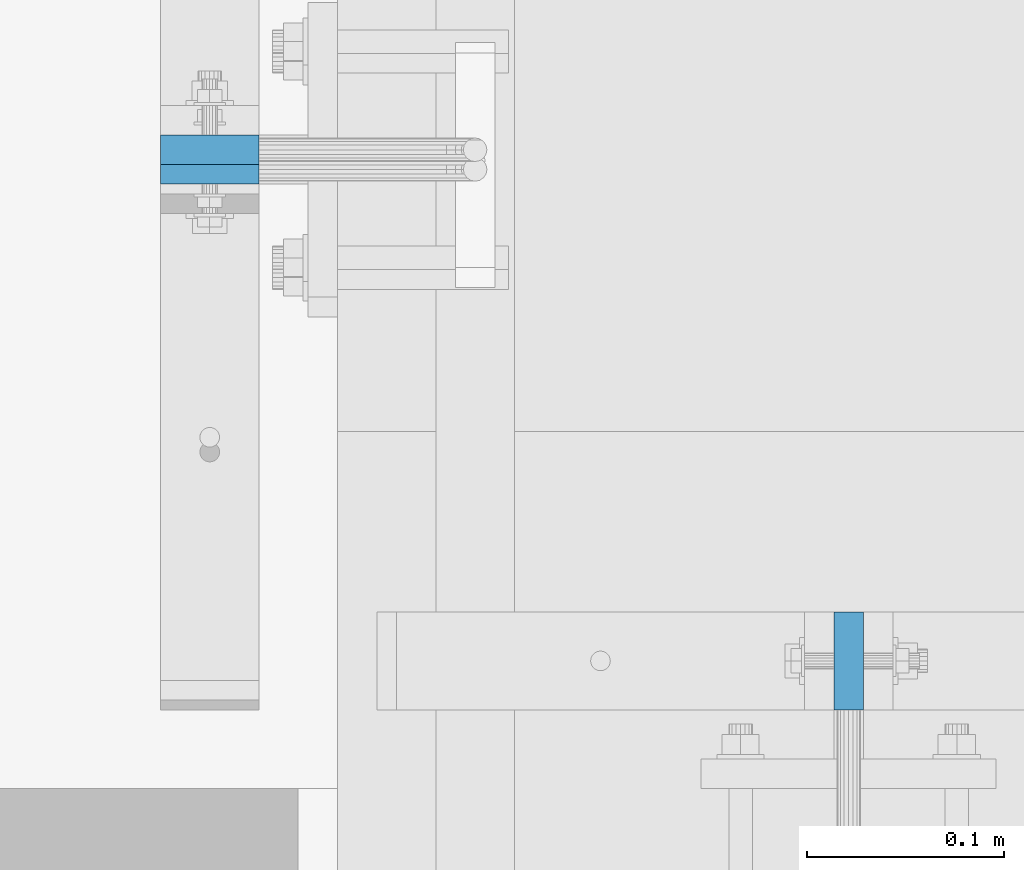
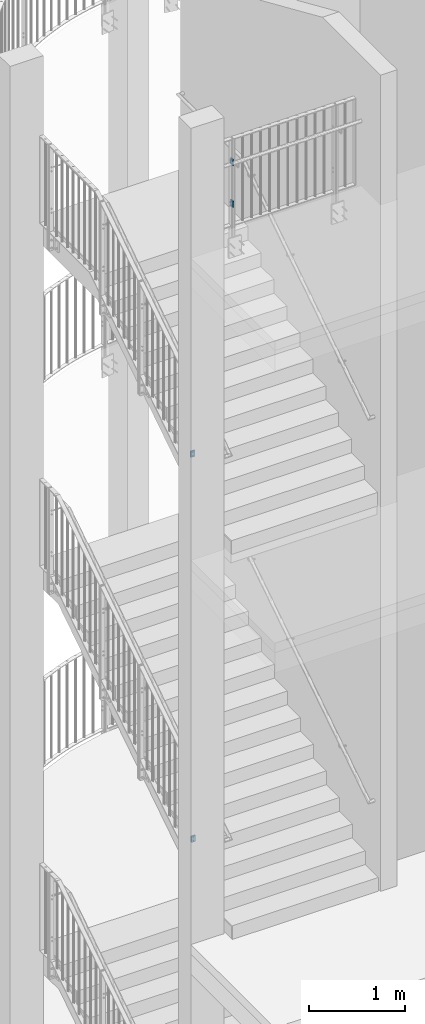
# One storey, part 119 of 296: 4 plates, 8 openings.
"""IFC2X3 building model written with IfcOpenShell, lengths in millimetres."""

from ifc_helpers import new_model, entity, si_unit, converted_unit, frame, frame_2d, origin, origin_with_axes, place, context, project, spatial, polyline, circle, outline, extrude, material, layer, layer_set, element, save


model = new_model("IFC2X3")

# Units and contexts
model_context = context("Model", 3, precision=1e-09, world=origin_with_axes())
ifc_project = project(units=[si_unit("LENGTHUNIT", "METRE", prefix="MILLI"), si_unit("AREAUNIT", "SQUARE_METRE"), si_unit("VOLUMEUNIT", "CUBIC_METRE"), converted_unit("PLANEANGLEUNIT", "DEGREE", entity("IfcPlaneAngleMeasure", 0.01745329), si_unit("PLANEANGLEUNIT", "RADIAN"), dimensions=[0, 0, 0, 0, 0, 0, 0])], contexts=[model_context])

# Site, building, storey
site_placement = place(None, origin_with_axes())
site = spatial("IfcSite", under=ifc_project, at=site_placement, Name="TZD-S?d | Treppenhausgel?nder", CompositionType="ELEMENT")
building_placement = place(site_placement, origin_with_axes())
building = spatial("IfcBuilding", under=site, at=building_placement, Name="Struktur 1", CompositionType="ELEMENT")
storey_placement = place(building_placement, origin_with_axes())
storey = spatial("IfcBuildingStorey", under=building, at=storey_placement, Name="Default Storey", CompositionType="ELEMENT", Elevation=0.0)

# Plate, openings
ifc_material = material(Name="S235JR")
ifc_layer = layer(ifc_material, 15.0)
ifc_layer_set = layer_set([ifc_layer], Name="S235JR")
plate_1_placement = place(None, frame((287.499999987, -3710.001, 14445.001), z_axis=(-1.0, 0.0, 0.0), x_axis=(0.0, -1.0, 0.0)))
plate_1 = element("IfcPlate", 1, at=plate_1_placement, inside=storey, material=ifc_layer_set, Name="Girder", ObjectType="Girder", context=model_context, shape_type="SweptSolid", body=[
    extrude(outline(polyline([(-25.0, -40.0), (25.0, -40.0), (25.0, 40.0), (-25.0, 40.0), (-25.0, -40.0)])), origin_with_axes(), (0.0, 0.0, 1.0), 15.0),
])
opening_1_placement = place(plate_1_placement, frame((0.0, -1e-09, -0.5), z_axis=(0.0, 0.0, 1.0), x_axis=(1.0, 0.0, 0.0)))
element("IfcOpeningElement", 2, at=opening_1_placement, cuts=plate_1, ObjectType="Opening", context=model_context, shape_type="SweptSolid", body=[
    extrude(circle(Radius=5.001, at=frame_2d((0.0, 25.0), x_axis=(1.0, 0.0))), origin(), (0.0, 0.0, 1.0), 16.0),
])
opening_2_placement = place(plate_1_placement, frame((0.0, -1e-09, -0.5), z_axis=(0.0, 0.0, 1.0), x_axis=(1.0, 0.0, 0.0)))
element("IfcOpeningElement", 3, at=opening_2_placement, cuts=plate_1, ObjectType="Opening", context=model_context, shape_type="SweptSolid", body=[
    extrude(circle(Radius=5.001, at=frame_2d((0.0, -25.0), x_axis=(1.0, 0.0))), origin(), (0.0, 0.0, 1.0), 16.0),
])

plate_2_placement = place(None, frame((287.499999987, -3710.001, 13915.001), z_axis=(-1.0, 0.0, 0.0), x_axis=(0.0, -1.0, 0.0)))
plate_2 = element("IfcPlate", 4, at=plate_2_placement, inside=storey, material=ifc_layer_set, Name="Girder", ObjectType="Girder", context=model_context, shape_type="SweptSolid", body=[
    extrude(outline(polyline([(-25.0, -40.0), (25.0, -40.0), (25.0, 40.0), (-25.0, 40.0), (-25.0, -40.0)])), origin_with_axes(), (0.0, 0.0, 1.0), 15.0),
])
opening_3_placement = place(plate_2_placement, frame((0.0, -1e-09, -0.5), z_axis=(0.0, 0.0, 1.0), x_axis=(1.0, 0.0, 0.0)))
element("IfcOpeningElement", 5, at=opening_3_placement, cuts=plate_2, ObjectType="Opening", context=model_context, shape_type="SweptSolid", body=[
    extrude(circle(Radius=5.001, at=frame_2d((0.0, 25.0), x_axis=(1.0, 0.0))), origin(), (0.0, 0.0, 1.0), 16.0),
])
opening_4_placement = place(plate_2_placement, frame((0.0, -1e-09, -0.5), z_axis=(0.0, 0.0, 1.0), x_axis=(1.0, 0.0, 0.0)))
element("IfcOpeningElement", 6, at=opening_4_placement, cuts=plate_2, ObjectType="Opening", context=model_context, shape_type="SweptSolid", body=[
    extrude(circle(Radius=5.001, at=frame_2d((0.0, -25.0), x_axis=(1.0, 0.0))), origin(), (0.0, 0.0, 1.0), 16.0),
])

plate_3_placement = place(None, frame((-45.0, -3442.5, 10679.999), z_axis=(0.0, -1.0, 0.0), x_axis=(1.0, 0.0, 0.0)))
plate_3 = element("IfcPlate", 7, at=plate_3_placement, inside=storey, material=ifc_layer_set, Name="Girder", ObjectType="Girder", context=model_context, shape_type="SweptSolid", body=[
    extrude(outline(polyline([(-25.0, -40.0), (25.0, -40.0), (25.0, 40.0), (-25.0, 40.0), (-25.0, -40.0)])), origin_with_axes(), (0.0, 0.0, 1.0), 15.0),
])
opening_5_placement = place(plate_3_placement, frame((0.0, -1e-09, -0.5), z_axis=(0.0, 0.0, 1.0), x_axis=(1.0, 0.0, 0.0)))
element("IfcOpeningElement", 8, at=opening_5_placement, cuts=plate_3, ObjectType="Opening", context=model_context, shape_type="SweptSolid", body=[
    extrude(circle(Radius=5.001, at=frame_2d((0.0, 25.0), x_axis=(1.0, 0.0))), origin(), (0.0, 0.0, 1.0), 16.0),
])
opening_6_placement = place(plate_3_placement, frame((0.0, -1e-09, -0.5), z_axis=(0.0, 0.0, 1.0), x_axis=(1.0, 0.0, 0.0)))
element("IfcOpeningElement", 9, at=opening_6_placement, cuts=plate_3, ObjectType="Opening", context=model_context, shape_type="SweptSolid", body=[
    extrude(circle(Radius=5.001, at=frame_2d((0.0, -25.0), x_axis=(1.0, 0.0))), origin(), (0.0, 0.0, 1.0), 16.0),
])

plate_4_placement = place(None, frame((-45.0, -3452.5, 5780.001), z_axis=(0.0, -1.0, 0.0), x_axis=(1.0, 0.0, 0.0)))
plate_4 = element("IfcPlate", 10, at=plate_4_placement, inside=storey, material=ifc_layer_set, Name="Girder", ObjectType="Girder", context=model_context, shape_type="SweptSolid", body=[
    extrude(outline(polyline([(-25.0, -40.0), (25.0, -40.0), (25.0, 40.0), (-25.0, 40.0), (-25.0, -40.0)])), origin_with_axes(), (0.0, 0.0, 1.0), 15.0),
])
opening_7_placement = place(plate_4_placement, frame((0.0, -1e-09, -0.5), z_axis=(0.0, 0.0, 1.0), x_axis=(1.0, 0.0, 0.0)))
element("IfcOpeningElement", 11, at=opening_7_placement, cuts=plate_4, ObjectType="Opening", context=model_context, shape_type="SweptSolid", body=[
    extrude(circle(Radius=5.001, at=frame_2d((0.0, 25.0), x_axis=(1.0, 0.0))), origin(), (0.0, 0.0, 1.0), 16.0),
])
opening_8_placement = place(plate_4_placement, frame((0.0, -1e-09, -0.5), z_axis=(0.0, 0.0, 1.0), x_axis=(1.0, 0.0, 0.0)))
element("IfcOpeningElement", 12, at=opening_8_placement, cuts=plate_4, ObjectType="Opening", context=model_context, shape_type="SweptSolid", body=[
    extrude(circle(Radius=5.001, at=frame_2d((0.0, -25.0), x_axis=(1.0, 0.0))), origin(), (0.0, 0.0, 1.0), 16.0),
])

save(model, "model.ifc")
